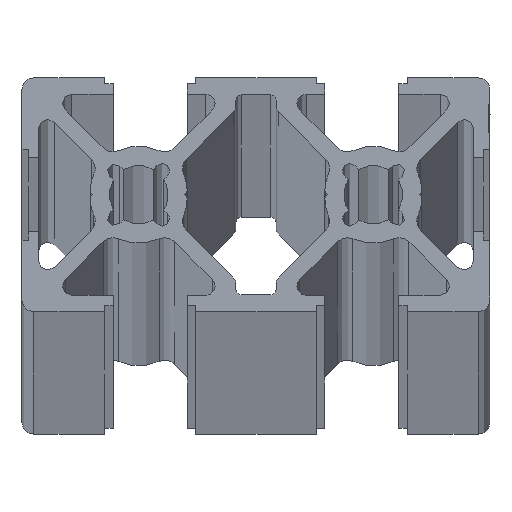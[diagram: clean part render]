
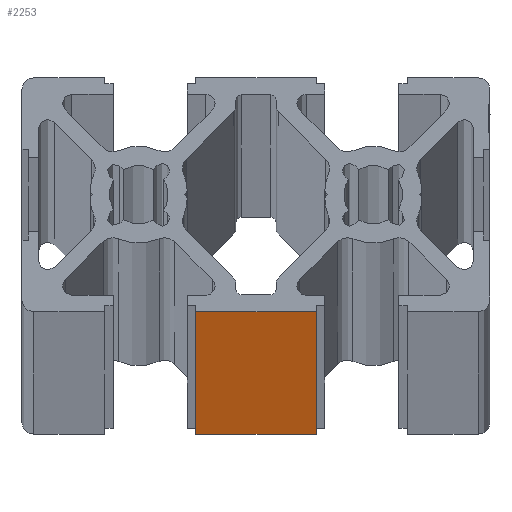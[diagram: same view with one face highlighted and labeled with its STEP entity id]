
A CAD part, top view. The second image highlights one B-rep face of the part: STEP entity #2253.
In plain terms, the highlighted planar face has unit normal (0, -1, 0).
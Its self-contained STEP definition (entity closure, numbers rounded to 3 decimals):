
#79 = EDGE_CURVE ( 'NONE', #4442, #733, #10258, .T. ) ;
#733 = VERTEX_POINT ( 'NONE', #9530 ) ;
#776 = VECTOR ( 'NONE', #7606, 1000. ) ;
#1008 = VECTOR ( 'NONE', #5741, 1000. ) ;
#1361 = CARTESIAN_POINT ( 'NONE',  ( 132.499, 242.506, -6000. ) ) ;
#2253 = ADVANCED_FACE ( 'NONE', ( #10718 ), #3947, .T. ) ;
#3101 = LINE ( 'NONE', #9802, #5311 ) ;
#3625 = DIRECTION ( 'NONE',  ( -1., 0., 0. ) ) ;
#3665 = DIRECTION ( 'NONE',  ( 0., -1., 0. ) ) ;
#3742 = EDGE_LOOP ( 'NONE', ( #6298, #10216, #10419, #7845 ) ) ;
#3834 = CARTESIAN_POINT ( 'NONE',  ( 122.24, 242.506, -6000. ) ) ;
#3922 = CARTESIAN_POINT ( 'NONE',  ( 127.369, 242.506, -6000. ) ) ;
#3947 = PLANE ( 'NONE',  #9464 ) ;
#4442 = VERTEX_POINT ( 'NONE', #5415 ) ;
#4612 = EDGE_CURVE ( 'NONE', #7027, #733, #9767, .T. ) ;
#4794 = LINE ( 'NONE', #8261, #9008 ) ;
#4907 = DIRECTION ( 'NONE',  ( -1., 0., 0. ) ) ;
#5311 = VECTOR ( 'NONE', #7325, 1000. ) ;
#5415 = CARTESIAN_POINT ( 'NONE',  ( 132.499, 242.506, 0. ) ) ;
#5741 = DIRECTION ( 'NONE',  ( -1., 0., 0. ) ) ;
#5840 = EDGE_CURVE ( 'NONE', #10769, #4442, #3101, .T. ) ;
#5883 = EDGE_CURVE ( 'NONE', #10769, #7027, #4794, .T. ) ;
#6298 = ORIENTED_EDGE ( 'NONE', *, *, #79, .T. ) ;
#7027 = VERTEX_POINT ( 'NONE', #3834 ) ;
#7325 = DIRECTION ( 'NONE',  ( 0., 0., 1. ) ) ;
#7606 = DIRECTION ( 'NONE',  ( 0., 0., 1. ) ) ;
#7845 = ORIENTED_EDGE ( 'NONE', *, *, #5840, .T. ) ;
#8261 = CARTESIAN_POINT ( 'NONE',  ( 127.369, 242.506, -6000. ) ) ;
#8492 = CARTESIAN_POINT ( 'NONE',  ( 127.369, 242.506, 0. ) ) ;
#9008 = VECTOR ( 'NONE', #4907, 1000. ) ;
#9280 = CARTESIAN_POINT ( 'NONE',  ( 122.24, 242.506, -6000. ) ) ;
#9464 = AXIS2_PLACEMENT_3D ( 'NONE', #3922, #3665, #3625 ) ;
#9530 = CARTESIAN_POINT ( 'NONE',  ( 122.24, 242.506, 0. ) ) ;
#9767 = LINE ( 'NONE', #9280, #776 ) ;
#9802 = CARTESIAN_POINT ( 'NONE',  ( 132.499, 242.506, -6000. ) ) ;
#10216 = ORIENTED_EDGE ( 'NONE', *, *, #4612, .F. ) ;
#10258 = LINE ( 'NONE', #8492, #1008 ) ;
#10419 = ORIENTED_EDGE ( 'NONE', *, *, #5883, .F. ) ;
#10718 = FACE_OUTER_BOUND ( 'NONE', #3742, .T. ) ;
#10769 = VERTEX_POINT ( 'NONE', #1361 ) ;
